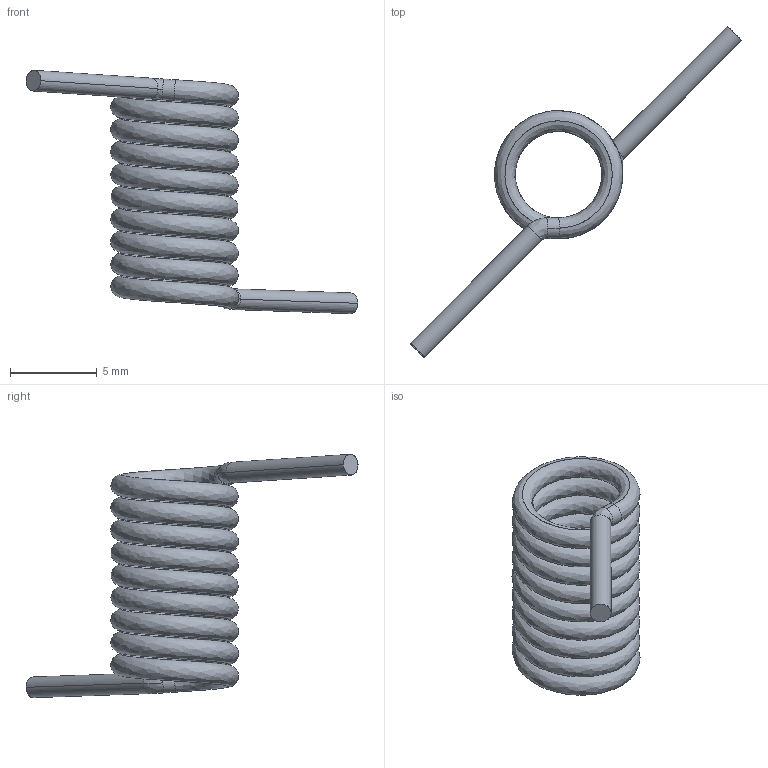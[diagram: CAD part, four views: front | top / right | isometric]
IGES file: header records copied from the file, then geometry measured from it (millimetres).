
Start section: SolidWorks IGES file using analytic representation for surfaces
Global section: file name: Z:\Mes documents\ATAO iges\Gamme CC\CC 1422\1422.230.00.IGS; native system: SolidWorks 2008; preprocessor: SolidWorks 2008; author: cbrechard; date: 110628.163807; units: millimetre
Bounding box: 19.17 x 19.19 x 14.06 mm (x, y, z)
Surface area: 766.3 mm2 (no closed solid volume)
Topology: 0 solids, 0 shells, 16 faces, 108 edges, 108 vertices
Faces by surface type: bspline 8, revolution 8
